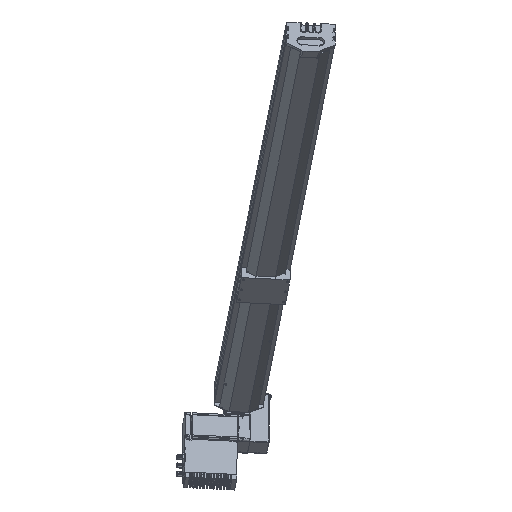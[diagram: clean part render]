
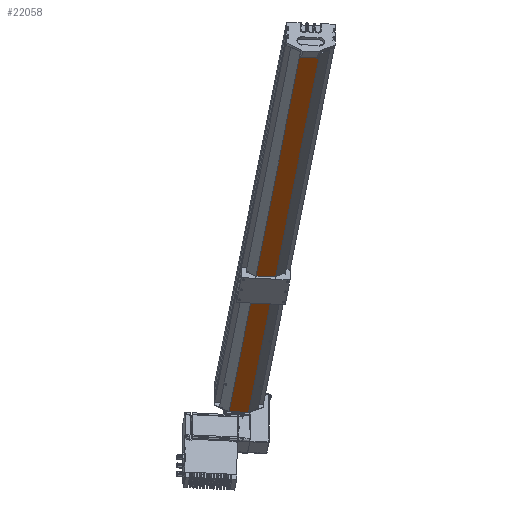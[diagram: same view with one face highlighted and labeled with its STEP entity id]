
A CAD part, isometric view. The second image highlights one B-rep face of the part: STEP entity #22058.
In plain terms, the highlighted planar face has unit normal (-0.632, -0.625, -0.459) as drawn and (0, 1, 0) by its records, which use the part's own axes.
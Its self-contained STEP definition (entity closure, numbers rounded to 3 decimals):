
#9483 = CARTESIAN_POINT ( 'NONE',  ( 20., 61.75, 1600. ) ) ;
#9500 = PLANE ( 'NONE',  #9526 ) ;
#9502 = DIRECTION ( 'NONE',  ( 0., -1., 0. ) ) ;
#9526 = AXIS2_PLACEMENT_3D ( 'NONE', #9483, #9502, #9538 ) ;
#9538 = DIRECTION ( 'NONE',  ( 0., 0., -1. ) ) ;
#9863 = FACE_OUTER_BOUND ( 'NONE', #22215, .T. ) ;
#9932 = CARTESIAN_POINT ( 'NONE',  ( -20., 61.75, 1600. ) ) ;
#9933 = DIRECTION ( 'NONE',  ( 0., 0., -1. ) ) ;
#9934 = VECTOR ( 'NONE', #9933, 1000. ) ;
#9936 = LINE ( 'NONE', #9932, #9934 ) ;
#9944 = LINE ( 'NONE', #9948, #9947 ) ;
#9946 = DIRECTION ( 'NONE',  ( -1., 0., 0. ) ) ;
#9947 = VECTOR ( 'NONE', #9946, 1000. ) ;
#9948 = CARTESIAN_POINT ( 'NONE',  ( 20., 61.75, 0. ) ) ;
#9949 = CARTESIAN_POINT ( 'NONE',  ( -20., 61.75, 0. ) ) ;
#9956 = LINE ( 'NONE', #10056, #10055 ) ;
#9961 = DIRECTION ( 'NONE',  ( 0., 0., -1. ) ) ;
#9962 = VECTOR ( 'NONE', #9961, 1000. ) ;
#9965 = LINE ( 'NONE', #9996, #9962 ) ;
#9995 = CARTESIAN_POINT ( 'NONE',  ( -20., 61.75, 1600. ) ) ;
#9996 = CARTESIAN_POINT ( 'NONE',  ( 20., 61.75, 1600. ) ) ;
#10054 = DIRECTION ( 'NONE',  ( -1., 0., 0. ) ) ;
#10055 = VECTOR ( 'NONE', #10054, 1000. ) ;
#10056 = CARTESIAN_POINT ( 'NONE',  ( 20., 61.75, 1600. ) ) ;
#10173 = CARTESIAN_POINT ( 'NONE',  ( 20., 61.75, 1600. ) ) ;
#14673 = CARTESIAN_POINT ( 'NONE',  ( 20., 61.75, 5.114 ) ) ;
#14751 = DIRECTION ( 'NONE',  ( 0., 0., -1. ) ) ;
#14752 = VECTOR ( 'NONE', #14751, 1000. ) ;
#14753 = CARTESIAN_POINT ( 'NONE',  ( 20., 61.75, 1600. ) ) ;
#14754 = LINE ( 'NONE', #14753, #14752 ) ;
#14791 = CARTESIAN_POINT ( 'NONE',  ( 20., 61.75, 0. ) ) ;
#21230 = VERTEX_POINT ( 'NONE', #14673 ) ;
#21233 = VERTEX_POINT ( 'NONE', #14791 ) ;
#21318 = EDGE_CURVE ( 'NONE', #21230, #21233, #14754, .T. ) ;
#22058 = ADVANCED_FACE ( 'NONE', ( #9863 ), #9500, .F. ) ;
#22099 = EDGE_CURVE ( 'NONE', #22204, #22115, #9936, .T. ) ;
#22100 = ORIENTED_EDGE ( 'NONE', *, *, #21318, .T. ) ;
#22103 = EDGE_CURVE ( 'NONE', #21233, #22115, #9944, .T. ) ;
#22115 = VERTEX_POINT ( 'NONE', #9949 ) ;
#22133 = ORIENTED_EDGE ( 'NONE', *, *, #22099, .F. ) ;
#22197 = ORIENTED_EDGE ( 'NONE', *, *, #22103, .T. ) ;
#22204 = VERTEX_POINT ( 'NONE', #9995 ) ;
#22207 = ORIENTED_EDGE ( 'NONE', *, *, #22213, .F. ) ;
#22208 = EDGE_CURVE ( 'NONE', #22290, #21230, #9965, .T. ) ;
#22213 = EDGE_CURVE ( 'NONE', #22290, #22204, #9956, .T. ) ;
#22215 = EDGE_LOOP ( 'NONE', ( #22197, #22133, #22207, #22248, #22100 ) ) ;
#22248 = ORIENTED_EDGE ( 'NONE', *, *, #22208, .T. ) ;
#22290 = VERTEX_POINT ( 'NONE', #10173 ) ;
